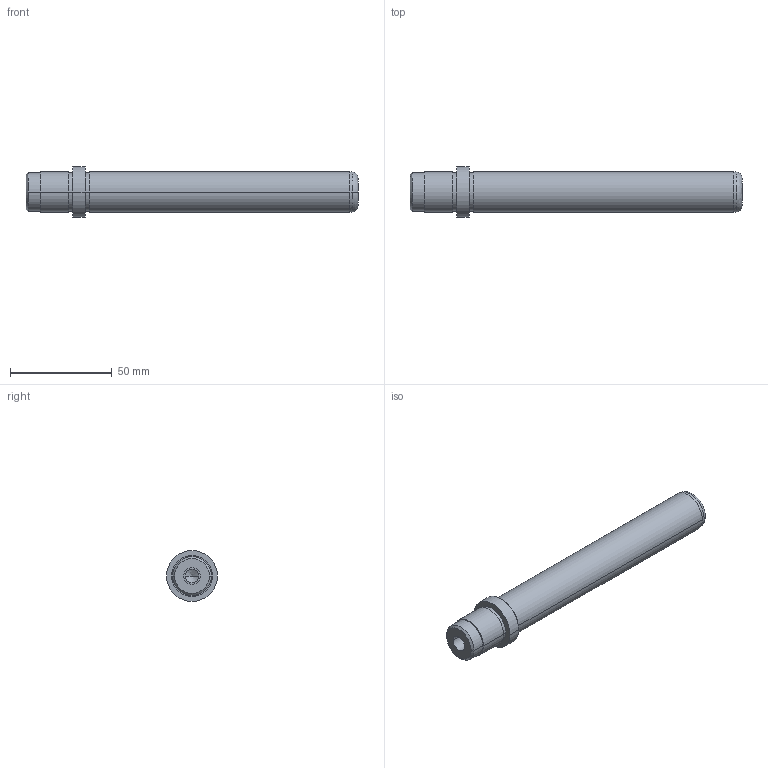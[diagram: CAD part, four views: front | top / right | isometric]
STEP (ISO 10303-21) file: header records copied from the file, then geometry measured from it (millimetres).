
FILE_DESCRIPTION( ( 'STEP AP203' ), '1' );
FILE_NAME( 'D:/Delta 3 D/D00/D00 - 20x140x23.step', '2003-01-02T06:41:26', ( ' ' ), ( ' ' ), 'XStep 1.0', ' ', ' ' );
FILE_SCHEMA( ( 'CONFIG_CONTROL_DESIGN' ) );
Length unit declared in the file: metre
Products named in the file (1): 1
Bounding box: 163 x 25 x 25 mm (x, y, z)
Volume: 49544.9 mm3; surface area: 12449.9 mm2
Topology: 1 solids, 1 shells, 39 faces, 78 edges, 48 vertices
Faces by surface type: revolution 28, bspline 11
Entity records: 1137 total; most frequent: CARTESIAN_POINT 277, DIRECTION 154, ORIENTED_EDGE 152, EDGE_CURVE 76, AXIS2_PLACEMENT_3D 49, EDGE_LOOP 48, VERTEX_POINT 48, CIRCLE 48
